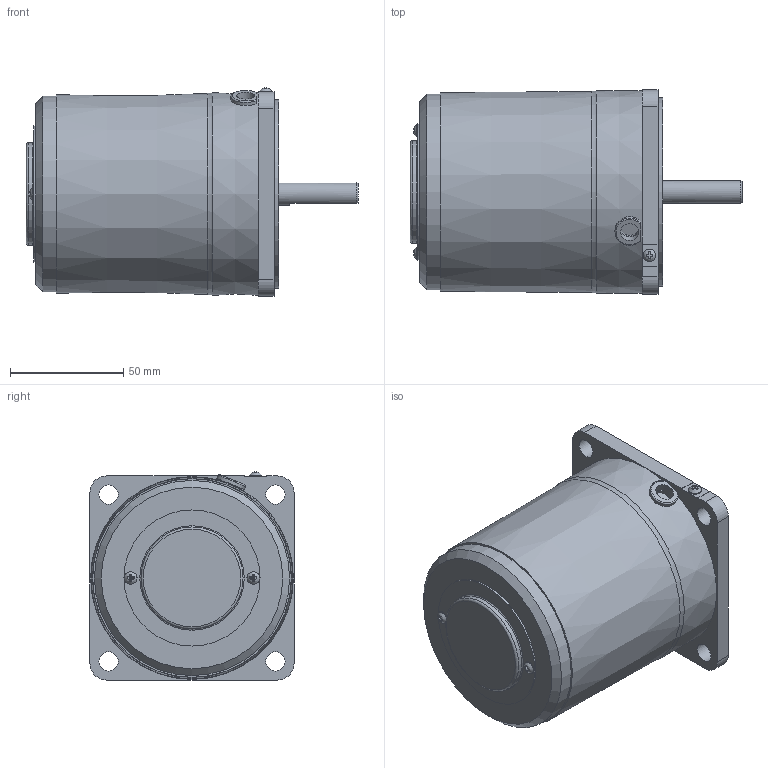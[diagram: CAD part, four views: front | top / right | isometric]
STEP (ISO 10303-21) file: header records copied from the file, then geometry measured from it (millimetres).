
FILE_DESCRIPTION(/* description */ (''),/* implementation_level */ '2;1');
FILE_NAME(/* name */ 'E:\도면작업\2016\0704) 미주향 SG 도면\3D MOTOR\SG6R\SG9R40D\SG9R40D_.stp',/* time_stamp */ '2016-12-12T16:33:10+09:00',/* author */ ('jy-jung'),/* organization */ (''),/* preprocessor_version */ 'ST-DEVELOPER v15.6',/* originating_system */ 'Autodesk Inventor 2015',/* authorisation */ '');
FILE_SCHEMA (('AUTOMOTIVE_DESIGN { 1 0 10303 214 3 1 1 }'));
Length unit declared in the file: millimetre
Products named in the file (1): 부품5
Bounding box: 146.3 x 90 x 91.76 mm (x, y, z)
Volume: 650763.7 mm3; surface area: 53567.2 mm2
Topology: 1 solids, 5 shells, 150 faces, 381 edges, 255 vertices
Faces by surface type: plane 97, cylinder 36, torus 10, cone 4, bspline 3
Full cylindrical faces by diameter (mm): 3 x2, 3.5 x2, 5.6 x3, 8 x1, 8.5 x4, 10 x2, 40 x1, 43 x1, 45 x1, 60 x1, 83 x1, 86 x1
Entity records: 4730 total; most frequent: CARTESIAN_POINT 1098, DIRECTION 686, ORIENTED_EDGE 674, EDGE_CURVE 337, AXIS2_PLACEMENT_3D 250, VERTEX_POINT 244, EDGE_LOOP 211, LINE 186
